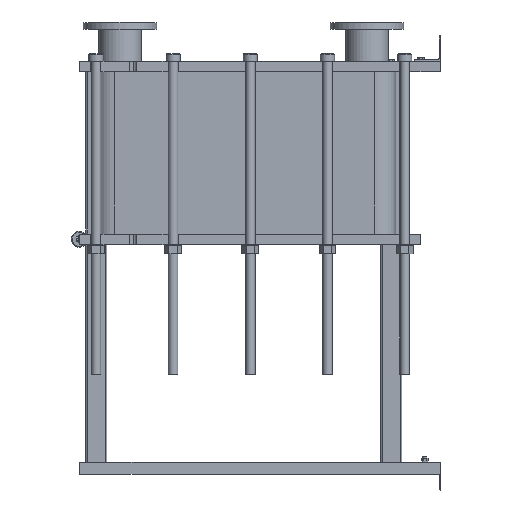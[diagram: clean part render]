
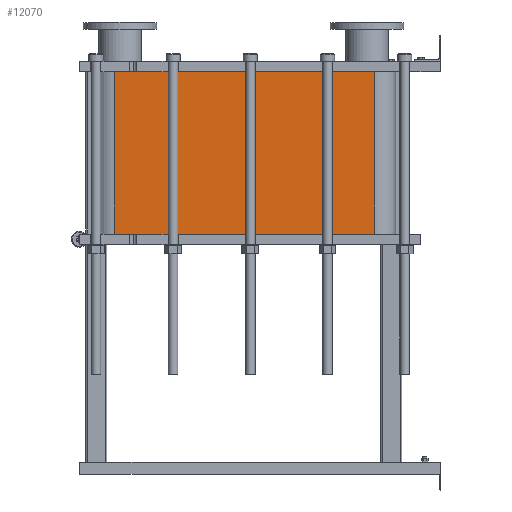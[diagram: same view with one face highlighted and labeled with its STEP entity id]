
A CAD part, left-side view. The second image highlights one B-rep face of the part: STEP entity #12070.
In plain terms, the highlighted planar face has unit normal (-1, 0, 0).
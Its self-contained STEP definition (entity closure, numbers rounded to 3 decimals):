
#1064=LINE('',#21140,#2164);
#1065=LINE('',#21144,#2165);
#1066=LINE('',#21146,#2166);
#1067=LINE('',#21147,#2167);
#2164=VECTOR('',#15790,10.);
#2165=VECTOR('',#15795,10.);
#2166=VECTOR('',#15796,10.);
#2167=VECTOR('',#15797,10.);
#3304=FACE_OUTER_BOUND('',#4091,.T.);
#4091=EDGE_LOOP('',(#9793,#9794,#9795,#9796));
#5677=VERTEX_POINT('',#21137);
#5678=VERTEX_POINT('',#21139);
#5679=VERTEX_POINT('',#21143);
#5680=VERTEX_POINT('',#21145);
#7118=EDGE_CURVE('',#5678,#5677,#1064,.T.);
#7120=EDGE_CURVE('',#5677,#5679,#1065,.T.);
#7121=EDGE_CURVE('',#5680,#5679,#1066,.T.);
#7122=EDGE_CURVE('',#5680,#5678,#1067,.T.);
#9793=ORIENTED_EDGE('',*,*,#7120,.T.);
#9794=ORIENTED_EDGE('',*,*,#7121,.F.);
#9795=ORIENTED_EDGE('',*,*,#7122,.T.);
#9796=ORIENTED_EDGE('',*,*,#7118,.T.);
#11441=PLANE('',#13191);
#12070=ADVANCED_FACE('',(#3304),#11441,.T.);
#13191=AXIS2_PLACEMENT_3D('',#21142,#15793,#15794);
#15790=DIRECTION('',(0.,0.,-1.));
#15793=DIRECTION('center_axis',(-1.,0.,0.));
#15794=DIRECTION('ref_axis',(0.,1.,0.));
#15795=DIRECTION('',(0.,-1.,0.));
#15796=DIRECTION('',(0.,0.,-1.));
#15797=DIRECTION('',(0.,1.,0.));
#21137=CARTESIAN_POINT('',(-248.152,1243.818,-617.55));
#21139=CARTESIAN_POINT('',(-248.152,1243.818,0.));
#21140=CARTESIAN_POINT('',(-248.152,1243.818,0.));
#21142=CARTESIAN_POINT('Origin',(-248.152,251.818,0.));
#21143=CARTESIAN_POINT('',(-248.152,251.818,-617.55));
#21144=CARTESIAN_POINT('',(-248.152,499.818,-617.55));
#21145=CARTESIAN_POINT('',(-248.152,251.818,0.));
#21146=CARTESIAN_POINT('',(-248.152,251.818,0.));
#21147=CARTESIAN_POINT('',(-248.152,251.818,0.));
